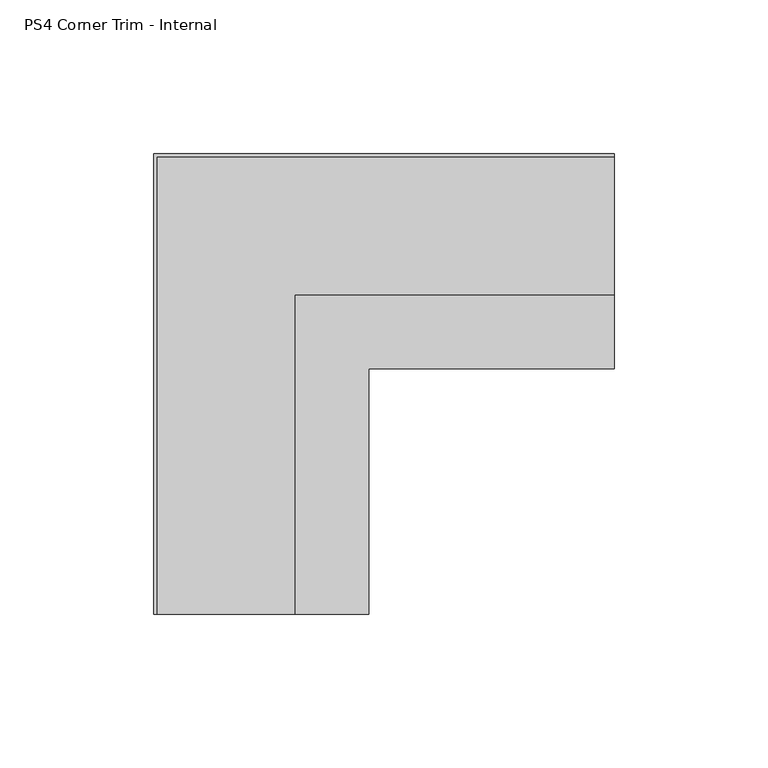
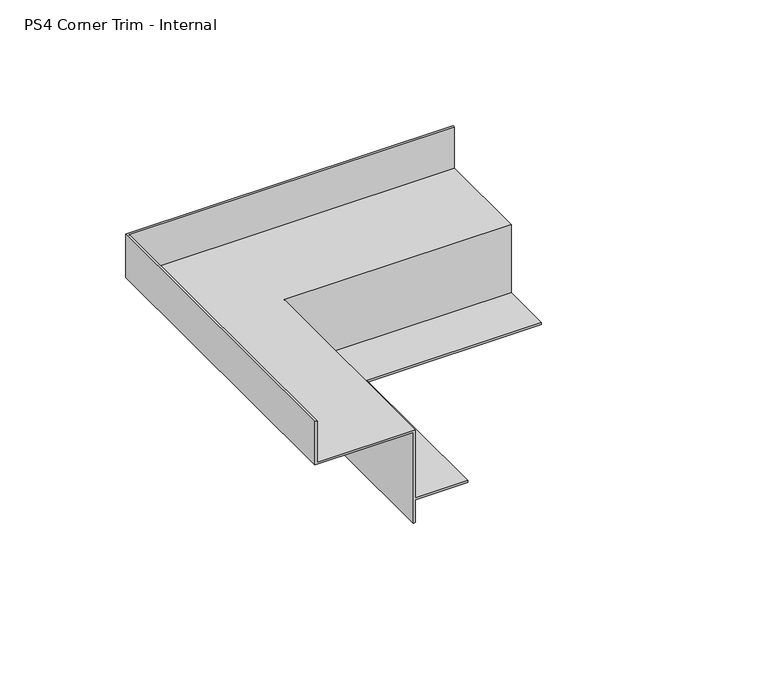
"""IFC4 building model written with IfcOpenShell, lengths in millimetres: proxy geometry, PS4 Corner Trim - Internal : Trims Pelican Systems Plaster Trim 45 x 20."""

from ifc_helpers import new_model, si_unit, origin, place, context, project, spatial, faceted_brep, source, transform, mapped, element, save


def ps4_corner_trim_internal_61b28674(model_context):
    return source(origin(), model_context, "Body", "Brep", [
        faceted_brep([(-30.0, -120.0, 45.0), (-30.0, -120.0, 24.0), (15.0, -120.0, 24.0), (15.0, -120.0, -20.0), (16.0, -120.0, -20.0), (16.0, -120.0, -9.0), (40.0, -120.0, -9.0), (40.0, -120.0, -8.0), (16.0, -120.0, -8.0), (16.0, -120.0, 25.0), (-29.0, -120.0, 25.0), (-29.0, -120.0, 45.0), (120.0, 30.0, 45.0), (120.0, 29.0, 45.0), (120.0, 29.0, 25.0), (120.0, -16.0, 25.0), (120.0, -16.0, -8.0), (120.0, -40.0, -8.0), (120.0, -40.0, -9.0), (120.0, -16.0, -9.0), (120.0, -16.0, -20.0), (120.0, -15.0, -20.0), (120.0, -15.0, 24.0), (120.0, 30.0, 24.0), (-30.0, 30.0, 24.0), (-30.0, 30.0, 45.0), (15.0, -15.0, -20.0), (15.0, -15.0, 24.0), (16.0, -16.0, 25.0), (16.0, -16.0, -8.0), (-29.0, 29.0, 45.0), (-29.0, 29.0, 25.0), (16.0, -16.0, -9.0), (16.0, -16.0, -20.0), (40.0, -40.0, -8.0), (40.0, -40.0, -9.0)], [[[0, 1, 2, 3, 4, 5, 6, 7, 8, 9, 10, 11]], [[12, 13, 14, 15, 16, 17, 18, 19, 20, 21, 22, 23]], [[24, 25, 12, 23]], [[26, 27, 22, 21]], [[28, 29, 16, 15]], [[30, 31, 14, 13]], [[32, 33, 20, 19]], [[34, 35, 18, 17]], [[1, 0, 25, 24]], [[2, 1, 24, 23, 22, 27]], [[3, 2, 27, 26]], [[4, 3, 26, 21, 20, 33]], [[5, 4, 33, 32]], [[6, 5, 32, 19, 18, 35]], [[7, 6, 35, 34]], [[8, 7, 34, 17, 16, 29]], [[9, 8, 29, 28]], [[10, 9, 28, 15, 14, 31]], [[11, 10, 31, 30]], [[0, 11, 30, 13, 12, 25]]]),
    ])


if __name__ == "__main__":
    model = new_model("IFC4")
    model_context = context("Model", 3, world=origin())
    ifc_project = project(units=[si_unit("LENGTHUNIT", "METRE", prefix="MILLI")], contexts=[model_context])
    site = spatial("IfcSite", under=ifc_project)
    building = spatial("IfcBuilding", under=site)
    placement = place(None, origin())
    ps4_corner_trim_internal_shape = ps4_corner_trim_internal_61b28674(model_context)
    element("IfcBuildingElementProxy", 1, Name="PS4 Corner Trim - Internal : Trims Pelican Systems Plaster Trim 45 x 20", ObjectType="PS4 Corner Trim - Internal : Trims Pelican Systems Plaster Trim 45 x 20", at=placement, inside=building, context=model_context, shape_type="MappedRepresentation", body=[
        mapped(ps4_corner_trim_internal_shape, transform((0.0, 0.0, 0.0), x_axis=(1.0, 0.0, 0.0), y_axis=(0.0, 1.0, 0.0), z_axis=(0.0, 0.0, 1.0))),
    ])
    save(model, "model.ifc")
